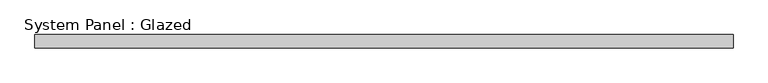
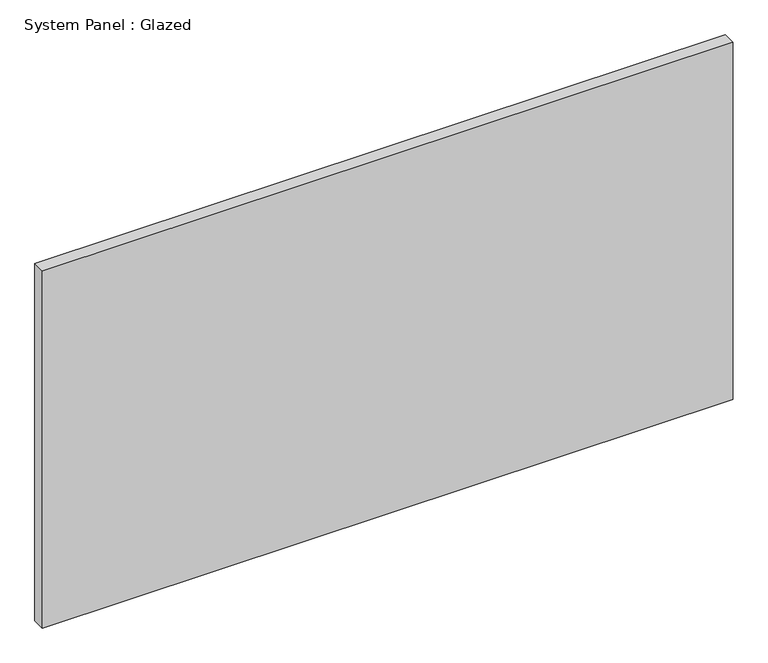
"""IFC4 building model written with IfcOpenShell, lengths in millimetres: plate geometry, System Panel : Glazed."""

from ifc_helpers import new_model, si_unit, origin, origin_with_axes, place, context, project, spatial, polyline, outline, extrude, source, transform, mapped, element, save


def system_panel_glazed_867ce92b(model_context):
    return source(origin(), model_context, "Body", "SweptSolid", [
        extrude(outline(polyline([(662.5000001, 24.5), (-662.5000001, 24.5), (-662.5000001, 49.5), (662.5000001, 49.5), (662.5000001, 24.5)])), origin_with_axes(), (0.0, 0.0, 1.0), 725.0),
    ])


if __name__ == "__main__":
    model = new_model("IFC4")
    model_context = context("Model", 3, world=origin())
    ifc_project = project(units=[si_unit("LENGTHUNIT", "METRE", prefix="MILLI")], contexts=[model_context])
    site = spatial("IfcSite", under=ifc_project)
    building = spatial("IfcBuilding", under=site)
    placement = place(None, origin())
    system_panel_glazed_shape = system_panel_glazed_867ce92b(model_context)
    element("IfcPlate", 1, ObjectType="System Panel : Glazed", at=placement, inside=building, context=model_context, shape_type="MappedRepresentation", body=[
        mapped(system_panel_glazed_shape, transform((0.0, 0.0, 0.0), x_axis=(1.0, 0.0, 0.0), y_axis=(0.0, 1.0, 0.0), z_axis=(0.0, 0.0, 1.0))),
    ])
    save(model, "model.ifc")
